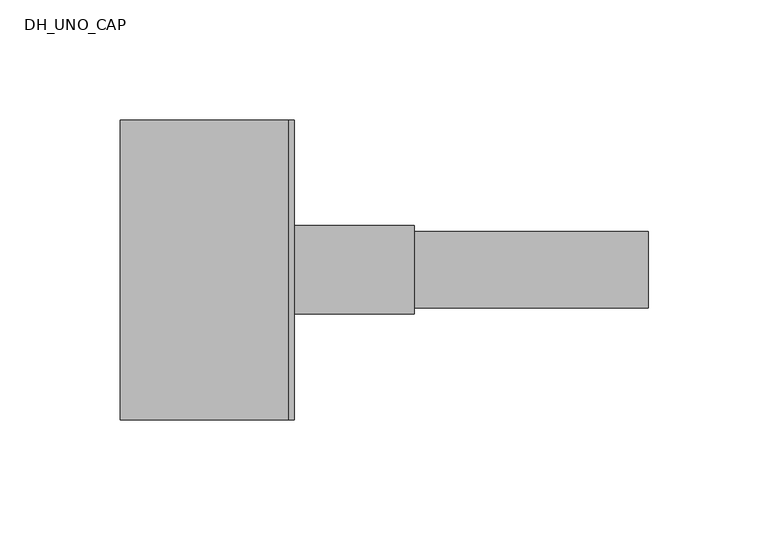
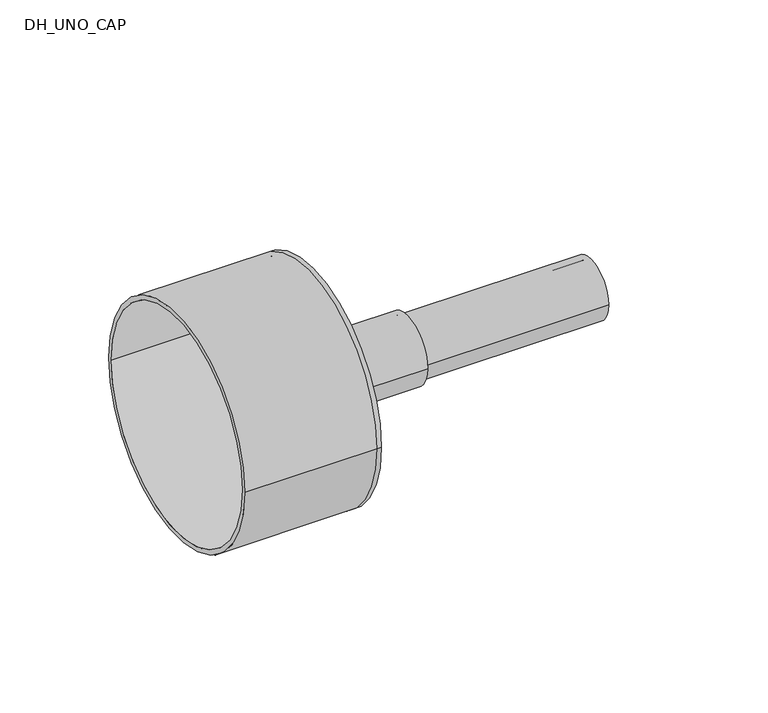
"""IFC4 building model written with IfcOpenShell, lengths in millimetres: pipe fitting geometry, DH_UNO_CAP : RAUVITHERM UNO 11 Heating - Rubber Cap."""

from ifc_helpers import new_model, si_unit, point, frame, origin, origin_2d, place, context, project, spatial, polyline, circle_curve, trimmed, segment, composite_curve, outline, extrude, source, transform, mapped, element, save
from ifc_brep_helpers import plane_surface, cylinder_surface, revolved_surface, advanced_brep


def dh_uno_cap_015867e2(model_context):
    return source(origin(), model_context, "Body", "SolidModel", [
        extrude(outline(composite_curve([segment(trimmed(circle_curve(origin_2d(), 16.0), [point((-16.0, 0.0))], [point((16.0, 0.0))], False, "CARTESIAN"), True, "CONTINUOUS"), segment(trimmed(circle_curve(origin_2d(), 16.0), [point((16.0, 0.0))], [point((-16.0, 0.0))], False, "CARTESIAN"), True, "CONTINUOUS")], self_intersect=False), holes=[composite_curve([segment(trimmed(circle_curve(origin_2d(), 13.1), [point((-13.1, 0.0))], [point((13.1, 0.0))], True, "CARTESIAN"), True, "CONTINUOUS"), segment(trimmed(circle_curve(origin_2d(), 13.1), [point((13.1, 0.0))], [point((-13.1, 0.0))], True, "CARTESIAN"), True, "CONTINUOUS")], self_intersect=False)]), frame((0.0, 0.0, 0.0), z_axis=(1.0, 0.0, 0.0), x_axis=(0.0, 1.0, 0.0)), (0.0, 0.0, 1.0), 150.0),
        advanced_brep(
        [(-70.0, -62.5, 0.0), (-70.0, 62.5, 0.0), (-70.0, -60.0, 0.0), (-70.0, 60.0, 0.0), (0.0, -60.0, 0.0), (0.0, 60.0, 0.0), (0.0, -62.5, 0.0), (0.0, 62.5, 0.0), (0.0, 16.0, 0.0), (0.0, -16.0, 0.0), (2.5, -62.5, 0.0), (2.5, 62.5, 0.0), (2.5, -16.0, 0.0), (2.5, 16.0, 0.0)],
        [
            (0, 1, circle_curve(frame((-70.0, 0.0, 0.0), z_axis=(-1.0, 0.0, 0.0), x_axis=(0.0, 1.0, 0.0)), 62.5)),
            (1, 0, circle_curve(frame((-70.0, 0.0, 0.0), z_axis=(-1.0, 0.0, 0.0), x_axis=(0.0, 1.0, 0.0)), 62.5)),
            (2, 3, circle_curve(frame((-70.0, 0.0, 0.0), z_axis=(1.0, 0.0, 0.0), x_axis=(0.0, 1.0, 0.0)), 60.0)),
            (3, 2, circle_curve(frame((-70.0, 0.0, 0.0), z_axis=(1.0, 0.0, 0.0), x_axis=(0.0, 1.0, 0.0)), 60.0)),
            (2, 4),
            (4, 5, circle_curve(frame((0.0, 0.0, 0.0), z_axis=(1.0, 0.0, 0.0), x_axis=(0.0, 1.0, 0.0)), 60.0)),
            (5, 3),
            (5, 4, circle_curve(frame((0.0, 0.0, 0.0), z_axis=(1.0, 0.0, 0.0), x_axis=(0.0, 1.0, 0.0)), 60.0)),
            (0, 6),
            (6, 7, circle_curve(frame((0.0, 0.0, 0.0), z_axis=(-1.0, 0.0, 0.0), x_axis=(0.0, 1.0, 0.0)), 62.5)),
            (7, 1),
            (7, 6, circle_curve(frame((0.0, 0.0, 0.0), z_axis=(-1.0, 0.0, 0.0), x_axis=(0.0, 1.0, 0.0)), 62.5)),
            (8, 9, circle_curve(frame((0.0, 0.0, 0.0), z_axis=(1.0, 0.0, 0.0), x_axis=(0.0, 1.0, 0.0)), 16.0)),
            (9, 8, circle_curve(frame((0.0, 0.0, 0.0), z_axis=(1.0, 0.0, 0.0), x_axis=(0.0, 1.0, 0.0)), 16.0)),
            (10, 11, circle_curve(frame((2.5, 0.0, 0.0), z_axis=(1.0, 0.0, 0.0), x_axis=(0.0, 1.0, 0.0)), 62.5)),
            (11, 10, circle_curve(frame((2.5, 0.0, 0.0), z_axis=(1.0, 0.0, 0.0), x_axis=(0.0, 1.0, 0.0)), 62.5)),
            (12, 13, circle_curve(frame((2.5, 0.0, 0.0), z_axis=(-1.0, 0.0, 0.0), x_axis=(0.0, 1.0, 0.0)), 16.0)),
            (13, 12, circle_curve(frame((2.5, 0.0, 0.0), z_axis=(-1.0, 0.0, 0.0), x_axis=(0.0, 1.0, 0.0)), 16.0)),
            (11, 7),
            (6, 10),
            (8, 13),
            (12, 9),
        ],
        [
            plane_surface(frame((-70.0, 0.0, 0.0), z_axis=(-1.0, 0.0, 0.0), x_axis=(0.0, 0.0, 1.0))),
            revolved_surface(polyline([(0.0, 60.0, 0.0), (-70.0, 60.0, 0.0)]), (-70.0, 0.0, 0.0), (1.0, 0.0, 0.0)),
            cylinder_surface(frame((-70.0, 0.0, 0.0), z_axis=(-1.0, 0.0, 0.0), x_axis=(0.0, 1.0, 0.0)), 62.5),
            plane_surface(frame((0.0, 0.0, 0.0), z_axis=(-1.0, 0.0, 0.0), x_axis=(0.0, 0.0, 1.0))),
            plane_surface(frame((2.5, 0.0, 0.0), z_axis=(1.0, 0.0, 0.0), x_axis=(0.0, 0.0, 1.0))),
            cylinder_surface(frame((0.0, 0.0, 0.0), z_axis=(-1.0, 0.0, 0.0), x_axis=(0.0, 1.0, 0.0)), 62.5),
            revolved_surface(polyline([(0.0, 16.0, 0.0), (2.5, 16.0, 0.0)]), (0.0, 0.0, 0.0), (-1.0, 0.0, 0.0)),
        ],
        [
            (0, [[1, 2], [3, 4]]),
            (1, [[-3, 5, 6, 7]]),
            (1, [[-4, -7, 8, -5]]),
            (2, [[-1, 9, 10, 11]]),
            (2, [[-2, -11, 12, -9]]),
            (3, [[-6, -8], [13, 14]]),
            (4, [[15, 16], [17, 18]]),
            (5, [[-16, 19, -10, 20]]),
            (5, [[-15, -20, -12, -19]]),
            (6, [[21, -17, 22, -13]]),
            (6, [[-21, -14, -22, -18]]),
        ],
    ),
        extrude(outline(composite_curve([segment(trimmed(circle_curve(origin_2d(), 18.5), [point((-18.5, 0.0))], [point((18.5, 0.0))], False, "CARTESIAN"), True, "CONTINUOUS"), segment(trimmed(circle_curve(origin_2d(), 18.5), [point((18.5, 0.0))], [point((-18.5, 0.0))], False, "CARTESIAN"), True, "CONTINUOUS")], self_intersect=False), holes=[composite_curve([segment(trimmed(circle_curve(origin_2d(), 16.0), [point((-16.0, 0.0))], [point((16.0, 0.0))], True, "CARTESIAN"), True, "CONTINUOUS"), segment(trimmed(circle_curve(origin_2d(), 16.0), [point((16.0, 0.0))], [point((-16.0, 0.0))], True, "CARTESIAN"), True, "CONTINUOUS")], self_intersect=False)]), frame((2.5, 0.0, 0.0), z_axis=(1.0, 0.0, 0.0), x_axis=(0.0, 1.0, 0.0)), (0.0, 0.0, 1.0), 50.0),
    ])


if __name__ == "__main__":
    model = new_model("IFC4")
    model_context = context("Model", 3, world=origin())
    ifc_project = project(units=[si_unit("LENGTHUNIT", "METRE", prefix="MILLI")], contexts=[model_context])
    site = spatial("IfcSite", under=ifc_project)
    building = spatial("IfcBuilding", under=site)
    placement = place(None, origin())
    dh_uno_cap_shape = dh_uno_cap_015867e2(model_context)
    element("IfcPipeFitting", 1, ObjectType="DH_UNO_CAP : RAUVITHERM UNO 11 Heating - Rubber Cap", at=placement, inside=building, context=model_context, shape_type="MappedRepresentation", body=[
        mapped(dh_uno_cap_shape, transform((0.0, 0.0, 0.0), x_axis=(1.0, 0.0, 0.0), y_axis=(0.0, 1.0, 0.0), z_axis=(0.0, 0.0, 1.0))),
    ])
    save(model, "model.ifc")
